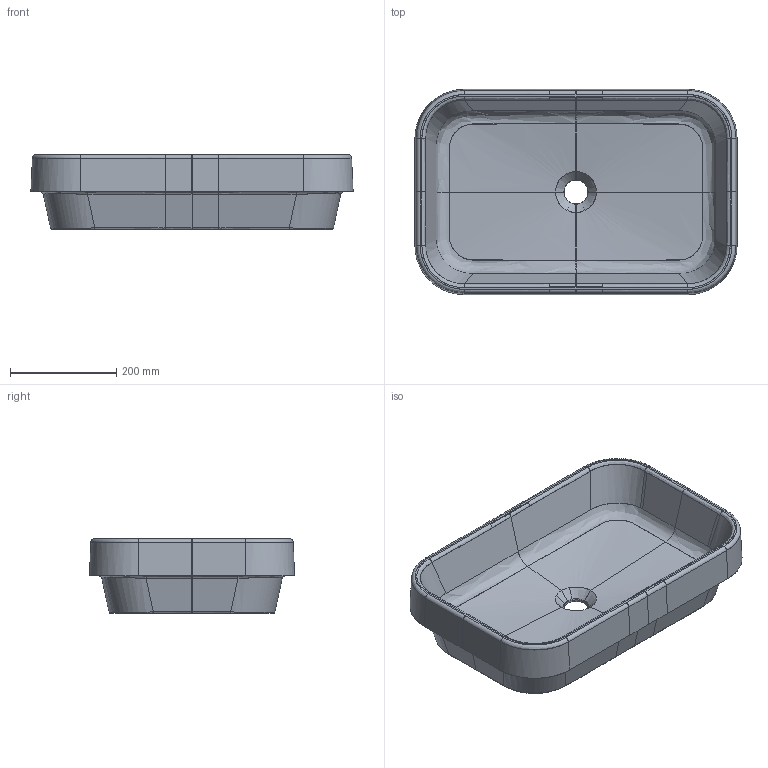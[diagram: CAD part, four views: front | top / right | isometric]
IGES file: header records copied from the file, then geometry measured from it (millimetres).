
Start section: START RECORD GO HERE.
Global section: file name: 3D ART 5452 ciotola 60 x 38.igs; native system: DASSAULT SYSTEMES CATIA V5 R19 - www.3ds.com; preprocessor: CATIA Version 5 Release 19 SP 5 ; author: Luca; organization: DESKTOP-V7SON24; date: 20201011.095617; units: millimetre
Bounding box: 605.7 x 385.71 x 140 mm (x, y, z)
Surface area: 796359.5 mm2 (no closed solid volume)
Topology: 0 solids, 0 shells, 792 faces, 3652 edges, 3652 vertices
Faces by surface type: bspline 712, revolution 48, plane 32
